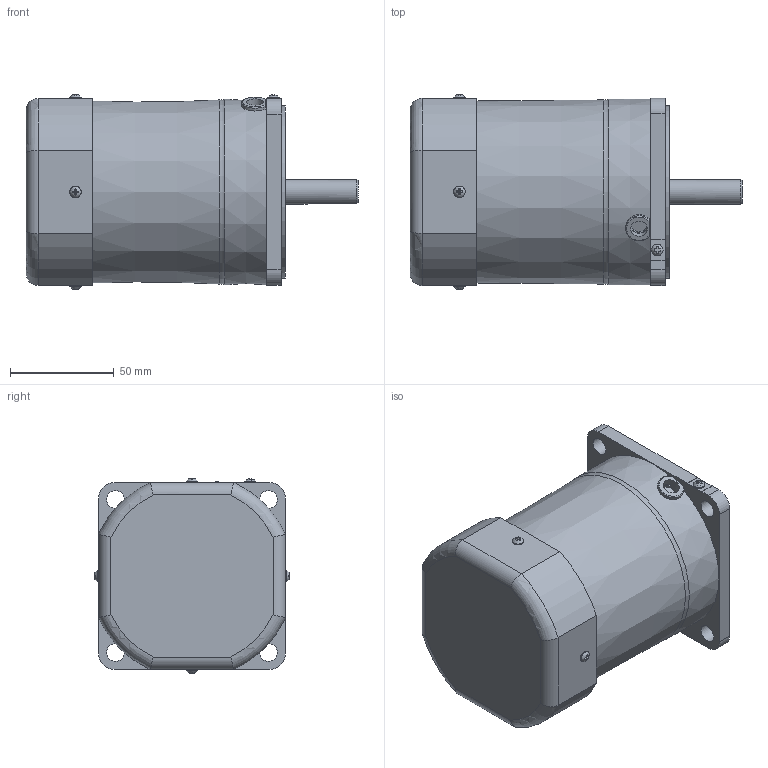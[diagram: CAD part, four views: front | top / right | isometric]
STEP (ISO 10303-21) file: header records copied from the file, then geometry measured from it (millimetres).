
FILE_DESCRIPTION(/* description */ (''),/* implementation_level */ '2;1');
FILE_NAME(/* name */ 'E:\도면작업\2016\0704) 미주향 SG 도면\3D MOTOR\SG9I60K_.stp',/* time_stamp */ '2016-07-22T13:51:17+09:00',/* author */ ('jy-jung'),/* organization */ (''),/* preprocessor_version */ 'ST-DEVELOPER v15.6',/* originating_system */ 'Autodesk Inventor 2015',/* authorisation */ '');
FILE_SCHEMA (('AUTOMOTIVE_DESIGN { 1 0 10303 214 3 1 1 }'));
Length unit declared in the file: millimetre
Products named in the file (1): 부품2
Bounding box: 159.8 x 93.89 x 93.89 mm (x, y, z)
Volume: 793415.9 mm3; surface area: 57982.1 mm2
Topology: 1 solids, 6 shells, 196 faces, 505 edges, 334 vertices
Faces by surface type: plane 123, cylinder 47, torus 14, cone 7, bspline 5
Full cylindrical faces by diameter (mm): 3 x4, 3.5 x4, 5.6 x5, 8 x1, 8.5 x4, 10 x1, 12 x1, 40 x1, 83 x1
Entity records: 6417 total; most frequent: CARTESIAN_POINT 1654, ORIENTED_EDGE 914, DIRECTION 877, EDGE_CURVE 457, VERTEX_POINT 324, AXIS2_PLACEMENT_3D 315, EDGE_LOOP 265, LINE 247
